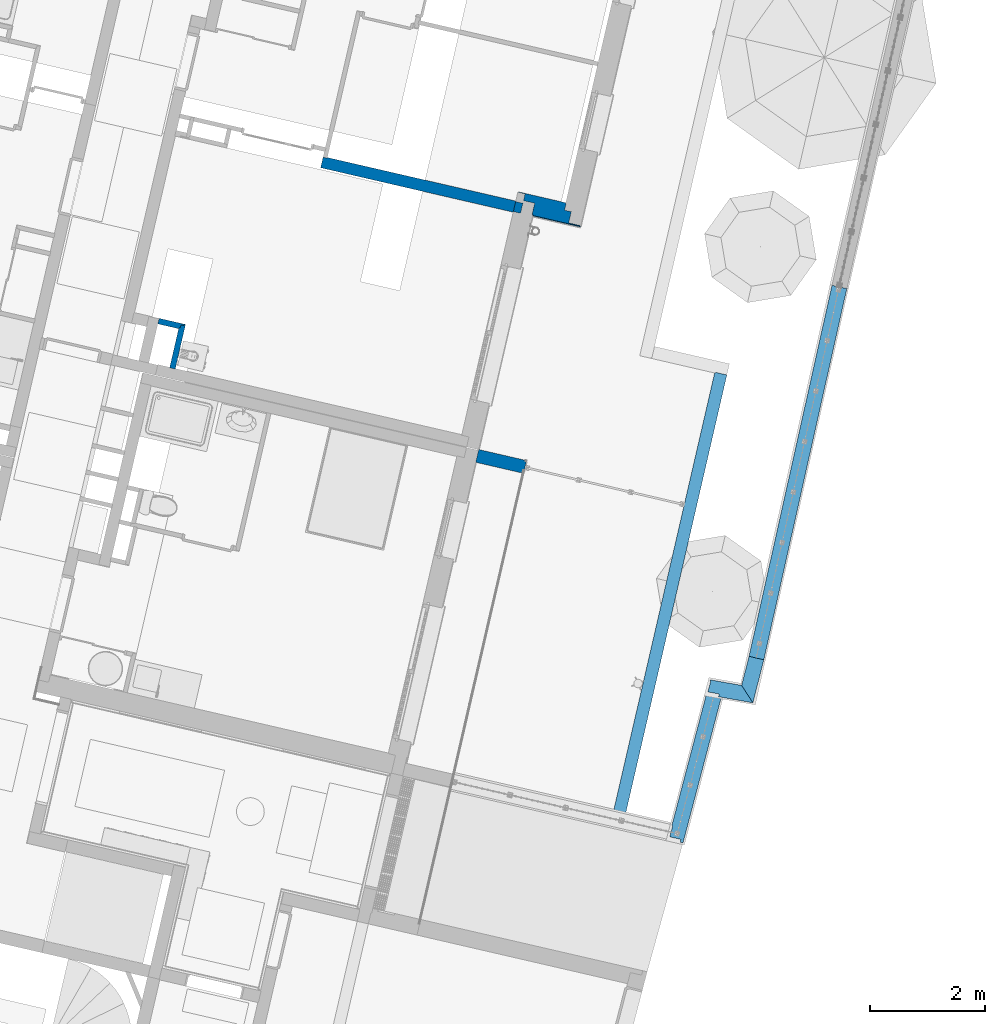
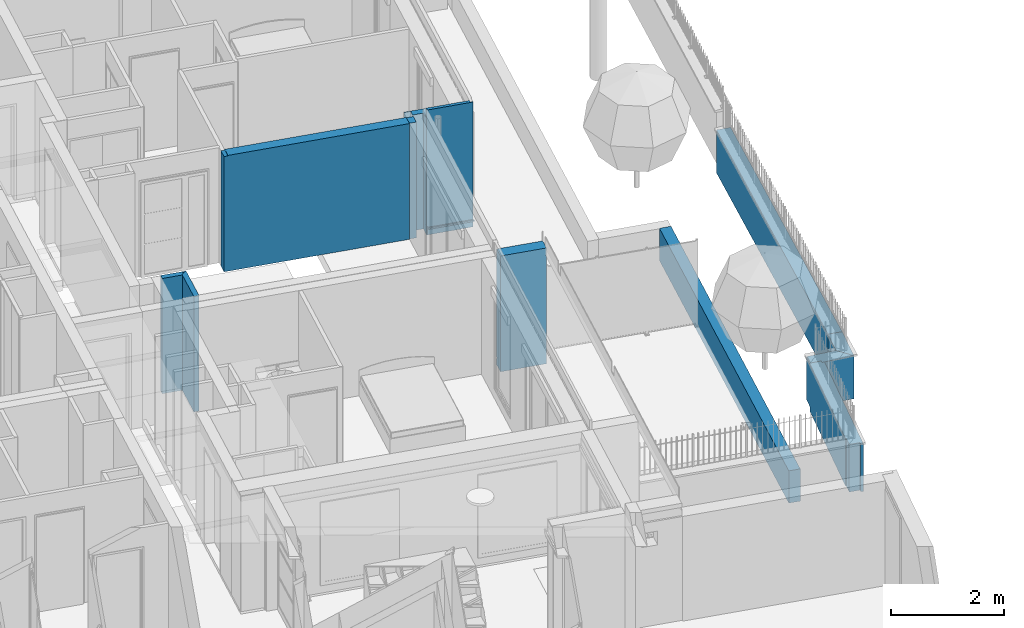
# One storey, part 58 of 119: 11 walls.
"""IFC2X3 building model written with IfcOpenShell, lengths in metres."""

import ifcopenshell
import ifcopenshell.guid

model = None  # the IFC model being written
_history = None  # IfcOwnerHistory: only IFC2X3 demands one
_inside = {}  # id of a spatial element -> (the spatial element, [elements in it])
_under = {}  # id of a project, library or spatial element -> (it, [spatial elements below it])
_declared = {}  # id of a project -> (the project, [libraries it declares])
_typed = {}  # id of a type object -> (the type object, [elements of that type])
_made_of = {}  # id of a material, layer set ... -> (it, [elements and type objects made of it])


def new_model(schema):
    """Start an empty IFC model of exactly this schema.

    Asked for "IFC4X3", IfcOpenShell would pick the latest addendum, in which some entities
    have other attributes; the version numbers below select the first issue.
    IFC2X3 requires an IfcOwnerHistory on every rooted entity: one is made here for all.
    """
    global model, _history
    if schema == "IFC4X3":
        model = ifcopenshell.file(schema_version=(4, 3, 0, 0))
    else:
        model = ifcopenshell.file(schema=schema)
    _inside.clear()
    _under.clear()
    _declared.clear()
    _typed.clear()
    _made_of.clear()
    _history = None
    if model.schema == "IFC2X3":
        org = make("IfcOrganization", Name="unknown")
        user = make(
            "IfcPersonAndOrganization",
            ThePerson=make("IfcPerson", FamilyName="unknown"),
            TheOrganization=org,
        )
        app = make(
            "IfcApplication",
            ApplicationDeveloper=org,
            Version="unknown",
            ApplicationFullName="unknown",
            ApplicationIdentifier="unknown",
        )
        _history = make(
            "IfcOwnerHistory",
            OwningUser=user,
            OwningApplication=app,
            ChangeAction="ADDED",
            CreationDate=0,
        )
    return model


def make(cls, **values):
    """One entity of the class cls with the attributes given. An attribute that is None is left unset."""
    return model.create_entity(
        cls, **{name: value for name, value in values.items() if value is not None}
    )


def entity(cls, *values):
    """Any entity or typed value of the class cls, its attributes in the order of the schema. None: left unset."""
    e = model.create_entity(cls)
    for i, value in enumerate(values):
        if value is not None:
            e[i] = value
    return e


def rooted(cls, **values):
    """An entity with a GlobalId (a new one), such as an element, a storey or a relation."""
    return make(cls, GlobalId=ifcopenshell.guid.new(), OwnerHistory=_history, **values)


def si_unit(unit_type, name, prefix=None):
    """IfcSIUnit, for example si_unit("LENGTHUNIT", "METRE", prefix="MILLI")."""
    return make("IfcSIUnit", UnitType=unit_type, Prefix=prefix, Name=name)


def converted_unit(unit_type, name, factor, base, dimensions=None, offset=None):
    """IfcConversionBasedUnit, such as the inch: factor (a typed value) times the base unit."""
    return make(
        "IfcConversionBasedUnit"
        if offset is None
        else "IfcConversionBasedUnitWithOffset",
        ConversionOffset=offset,
        Dimensions=None
        if dimensions is None
        else entity("IfcDimensionalExponents", *dimensions),
        UnitType=unit_type,
        Name=name,
        ConversionFactor=make(
            "IfcMeasureWithUnit", ValueComponent=factor, UnitComponent=base
        ),
    )


def derived_unit(unit_type, elements):
    """IfcDerivedUnit: a product of units, each with its exponent."""
    return make(
        "IfcDerivedUnit",
        Elements=[
            make("IfcDerivedUnitElement", Unit=unit, Exponent=power)
            for unit, power in elements
        ],
        UnitType=unit_type,
    )


def money_unit(currency):
    """IfcMonetaryUnit."""
    return make("IfcMonetaryUnit", Currency=currency)


def assignment(units):
    """IfcUnitAssignment: the units of a project."""
    return None if units is None else make("IfcUnitAssignment", Units=units)


def point(xyz):
    """IfcCartesianPoint."""
    return None if xyz is None else make("IfcCartesianPoint", Coordinates=xyz)


def direction(xyz):
    """IfcDirection."""
    return None if xyz is None else make("IfcDirection", DirectionRatios=xyz)


def frame(location, z_axis=None, x_axis=None):
    """IfcAxis2Placement3D, a coordinate frame: its origin and axes. An axis left out is left unset."""
    return make(
        "IfcAxis2Placement3D",
        Location=point(location),
        Axis=direction(z_axis),
        RefDirection=direction(x_axis),
    )


def origin_with_axes():
    """The frame at (0, 0, 0) with the z axis (0, 0, 1) and the x axis (1, 0, 0) written out."""
    return frame((0.0, 0.0, 0.0), z_axis=(0.0, 0.0, 1.0), x_axis=(1.0, 0.0, 0.0))


def place(relative_to, where):
    """IfcLocalPlacement: puts the frame where relative to a parent placement (None: the world)."""
    return make(
        "IfcLocalPlacement", PlacementRelTo=relative_to, RelativePlacement=where
    )


def context(
    kind, dimensions, precision=None, world=None, true_north=None, identifier=None
):
    """IfcGeometricRepresentationContext, for example the 3D "Model" context."""
    return make(
        "IfcGeometricRepresentationContext",
        ContextIdentifier=identifier,
        ContextType=kind,
        CoordinateSpaceDimension=dimensions,
        Precision=precision,
        WorldCoordinateSystem=world,
        TrueNorth=true_north,
    )


def subcontext(parent, identifier, kind, view, scale=None):
    """IfcGeometricRepresentationSubContext, for example "Body" below "Model"."""
    return make(
        "IfcGeometricRepresentationSubContext",
        ContextIdentifier=identifier,
        ContextType=kind,
        ParentContext=parent,
        TargetScale=scale,
        TargetView=view,
    )


def project(units=None, contexts=None):
    """IfcProject with its units and contexts."""
    return rooted(
        "IfcProject",
        Name="project",
        RepresentationContexts=contexts,
        UnitsInContext=assignment(units),
    )


def spatial(cls, under=None, at=None, **own):
    """A site, building, storey or space (cls), placed at a placement, below another one or the project."""
    s = rooted(cls, ObjectPlacement=at, **own)
    if under is not None:
        _under.setdefault(under.id(), (under, []))[1].append(s)
    return s


def faces_of(points, faces, orient=None, outer=None):
    """IfcFace entities. A face is a list of loops; a loop is a list of indices into points, from 0.

    orient and outer hold one flag for each loop. By default every Orientation is true, the
    first loop of a face is its IfcFaceOuterBound and the others are IfcFaceBound.
    """
    made = []
    for i, loops in enumerate(faces):
        bounds = []
        for j, loop in enumerate(loops):
            is_outer = j == 0 if outer is None else outer[i][j]
            bounds.append(
                make(
                    "IfcFaceOuterBound" if is_outer else "IfcFaceBound",
                    Bound=make("IfcPolyLoop", Polygon=[points[k] for k in loop]),
                    Orientation=True if orient is None else orient[i][j],
                )
            )
        made.append(make("IfcFace", Bounds=bounds))
    return made


def faceted_brep(points, faces, orient=None, outer=None, voids=None):
    """IfcFacetedBrep: a solid bounded by flat faces; with voids (closed shells), ...WithVoids."""
    shared = [point(p) for p in points]
    hull = make("IfcClosedShell", CfsFaces=faces_of(shared, faces, orient, outer))
    if voids is None:
        return make("IfcFacetedBrep", Outer=hull)
    return make(
        "IfcFacetedBrepWithVoids",
        Outer=hull,
        Voids=[
            make(cls, CfsFaces=faces_of(shared, fs, o, b)) for cls, fs, o, b in voids
        ],
    )


def shape(context_of_items, identifier, shape_type, items):
    """IfcShapeRepresentation: the items that make up one representation, for example the "Body"."""
    return make(
        "IfcShapeRepresentation",
        ContextOfItems=context_of_items,
        RepresentationIdentifier=identifier,
        RepresentationType=shape_type,
        Items=items,
    )


def material(Name=None, Category=None):
    """IfcMaterial."""
    return make("IfcMaterial", Name=Name, Category=Category)


def material_list(materials):
    """IfcMaterialList."""
    return make("IfcMaterialList", Materials=materials)


def made_of(thing, what):
    """Note that an element or type object is made of a material, layer set ...; save() writes the relation."""
    if what is not None:
        _made_of.setdefault(what.id(), (what, []))[1].append(thing)
    return thing


def type_object(cls, material=None, **own):
    """A type object (cls), such as IfcWallType, which elements share."""
    return made_of(rooted(cls, **own), material)


def element(
    cls,
    number,
    at=None,
    inside=None,
    cuts=None,
    type_object=None,
    material=None,
    context=None,
    identifier="Body",
    shape_type=None,
    held_by="IfcProductDefinitionShape",
    body=None,
    shapes=None,
    **own,
):
    """One element of the class cls, such as IfcWall. Its Tag is "e" and its number.

    at: its placement. inside: the storey or other place that contains it. cuts: it is an
    opening in that element (IfcRelVoidsElement). A single representation is given by context,
    identifier, shape_type and body (its items); several are given by shapes. held_by: the class
    of the entity that holds the representations. save() writes the other relations.
    """
    e = rooted(cls, Tag="e%d" % number, ObjectPlacement=at, **own)
    if body is not None:
        shapes = [shape(context, identifier, shape_type, body)]
    if shapes is not None:
        e.Representation = make(held_by, Representations=shapes)
    if inside is not None:
        _inside.setdefault(inside.id(), (inside, []))[1].append(e)
    if cuts is not None:
        rooted(
            "IfcRelVoidsElement", RelatingBuildingElement=cuts, RelatedOpeningElement=e
        )
    if type_object is not None:
        _typed.setdefault(type_object.id(), (type_object, []))[1].append(e)
    return made_of(e, material)


def aggregate(whole, parts):
    """IfcRelAggregates: a whole, such as a stair, and the parts it consists of."""
    return rooted("IfcRelAggregates", RelatingObject=whole, RelatedObjects=parts)


def save(model, path):
    """Write the relations noted so far, then the file.

    IfcRelAggregates (storeys below a building ...), IfcRelContainedInSpatialStructure (elements
    in a storey), IfcRelDefinesByType, IfcRelAssociatesMaterial and IfcRelDeclares: one each for
    every whole, place, type object, material and project.
    """
    for whole, parts in _under.values():
        aggregate(whole, parts)
    for where, things in _inside.values():
        rooted(
            "IfcRelContainedInSpatialStructure",
            RelatedElements=things,
            RelatingStructure=where,
        )
    for kind, things in _typed.values():
        rooted("IfcRelDefinesByType", RelatedObjects=things, RelatingType=kind)
    for what, things in _made_of.values():
        rooted("IfcRelAssociatesMaterial", RelatedObjects=things, RelatingMaterial=what)
    for by, libraries in _declared.values():
        rooted("IfcRelDeclares", RelatingContext=by, RelatedDefinitions=libraries)
    model.write(path)


model = new_model("IFC2X3")

# Units and contexts
model_context = context("Model", 3, precision=1e-05, world=origin_with_axes(), true_north=direction((0.0, 1.0)))
body_context = subcontext(model_context, "Body", "Model", "MODEL_VIEW")
ifc_project = project(units=[si_unit("LENGTHUNIT", "METRE"), si_unit("AREAUNIT", "SQUARE_METRE"), si_unit("VOLUMEUNIT", "CUBIC_METRE"), converted_unit("PLANEANGLEUNIT", "DEGREE", entity("IfcPlaneAngleMeasure", 0.0174532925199), si_unit("PLANEANGLEUNIT", "RADIAN"), dimensions=[0, 0, 0, 0, 0, 0, 0]), si_unit("SOLIDANGLEUNIT", "STERADIAN"), money_unit("EUR"), converted_unit("TIMEUNIT", "Year", entity("IfcTimeMeasure", 31556926.0), si_unit("TIMEUNIT", "SECOND"), dimensions=[0, 0, 1, 0, 0, 0, 0]), si_unit("MASSUNIT", "GRAM", prefix="KILO"), si_unit("THERMODYNAMICTEMPERATUREUNIT", "DEGREE_CELSIUS"), si_unit("LUMINOUSINTENSITYUNIT", "LUMEN"), si_unit("ENERGYUNIT", "JOULE", prefix="MEGA"), derived_unit("THERMALCONDUCTANCEUNIT", [(si_unit("POWERUNIT", "WATT"), 1), (si_unit("LENGTHUNIT", "METRE"), -1), (si_unit("THERMODYNAMICTEMPERATUREUNIT", "KELVIN"), -1)]), derived_unit("SPECIFICHEATCAPACITYUNIT", [(si_unit("ENERGYUNIT", "JOULE"), 1), (si_unit("MASSUNIT", "GRAM", prefix="KILO"), -1), (si_unit("THERMODYNAMICTEMPERATUREUNIT", "KELVIN"), -1)]), derived_unit("MASSDENSITYUNIT", [(si_unit("MASSUNIT", "GRAM", prefix="KILO"), 1), (si_unit("VOLUMEUNIT", "CUBIC_METRE"), -1)])], contexts=[model_context])

# Site, building, storey
site_placement = place(None, origin_with_axes())
site = spatial("IfcSite", under=ifc_project, at=site_placement, Name="Site", CompositionType="ELEMENT")
building_placement = place(site_placement, origin_with_axes())
building = spatial("IfcBuilding", under=site, at=building_placement, Name="Bâtiment", CompositionType="ELEMENT")
storey_placement = place(building_placement, origin_with_axes())
storey = spatial("IfcBuildingStorey", under=building, at=storey_placement, Name="Rez-de-chaussée", CompositionType="ELEMENT", Elevation=0.0)

# Walls
ifc_material_1 = material(Name="Finition int - Enduit plâtre")
ifc_material_2 = material(Name="Béton")
ifc_material_list_1 = material_list([ifc_material_1, ifc_material_2, ifc_material_1])
wall_type_1 = type_object("IfcWallType", Name="2 - Murs Béton 18 + Enduit 2 Faces 200", PredefinedType="USERDEFINED")
wall_1_placement = place(storey_placement, frame((-4.73651764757, 7.48675072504, 0.0), z_axis=(0.0, 0.0, 1.0), x_axis=(0.974387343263, -0.224876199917, 0.0)))
element("IfcWall", 1, at=wall_1_placement, inside=storey, type_object=wall_type_1, material=ifc_material_list_1, Name="M_Ext-008", ObjectType="SOLIDWALL", context=body_context, shape_type="Brep", body=[
    faceted_brep([(0.0, 0.19, 2.51), (3.37119131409, 0.19, 2.51), (3.37119131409, 0.19, 0.0), (-1.17892362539e-10, 0.19, 0.0), (-1.17893250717e-10, 0.19, 2.5), (3.37119131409, 0.18, 2.51), (0.0, 0.18, 2.51), (3.37119131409, 0.18, 0.0), (-1.11687548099e-10, 0.18, 0.0), (-1.11687548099e-10, 0.18, 2.5)], [[[0, 1, 2, 3, 4]], [[5, 1, 0, 6]], [[1, 5, 7, 2]], [[7, 8, 3, 2]], [[8, 9, 4, 3]], [[6, 0, 4, 9]], [[5, 6, 9, 8, 7]]]),
    faceted_brep([(0.0, 0.18, 2.51), (3.37119131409, 0.18, 2.51), (3.37119131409, 0.18, 0.0), (-0.0739999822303, 0.18, 0.0), (-0.0739999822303, 0.18, 2.5), (0.0, 0.18, 2.5), (3.37119131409, 0.0, 2.51), (0.0, 0.0, 2.51), (3.37119131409, 0.0, 0.0), (-0.0739999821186, 0.0, 0.0), (-0.0739999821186, 0.0, 2.5), (0.0, 0.0, 2.5)], [[[0, 1, 2, 3, 4, 5]], [[6, 1, 0, 7]], [[1, 6, 8, 2]], [[8, 9, 3, 2]], [[9, 10, 4, 3]], [[5, 4, 10, 11]], [[7, 0, 5, 11]], [[6, 7, 11, 10, 9, 8]]]),
    faceted_brep([(0.0, 0.0, 2.51), (3.37119131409, 0.0, 2.51), (3.37119131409, 0.0, 0.0), (-0.0739999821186, 0.0, 0.0), (-0.0739999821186, 0.0, 2.5), (0.0, 0.0, 2.5), (3.37119131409, -0.01, 2.51), (0.0, -0.01, 2.51), (3.37119131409, -0.01, 0.0), (-0.0739999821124, -0.01, 0.0), (-0.0739999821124, -0.01, 2.5), (0.0, -0.01, 2.5)], [[[0, 1, 2, 3, 4, 5]], [[6, 1, 0, 7]], [[1, 6, 8, 2]], [[8, 9, 3, 2]], [[9, 10, 4, 3]], [[5, 4, 10, 11]], [[7, 0, 5, 11]], [[6, 7, 11, 10, 9, 8]]]),
])
wall_type_2 = type_object("IfcWallType", Name="Béton 180", PredefinedType="USERDEFINED")
wall_2_placement = place(storey_placement, frame((-1.4516714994, 6.72865003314, 0.0), z_axis=(0.0, 0.0, 1.0), x_axis=(0.974387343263, -0.224876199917, 0.0)))
element("IfcWall", 2, at=wall_2_placement, inside=storey, type_object=wall_type_2, material=ifc_material_2, Name="M_Ext-008", ObjectType="SOLIDWALL", context=body_context, shape_type="Brep", body=[
    faceted_brep([(0.0, 0.18, 0.0), (0.0, 0.18, 2.51), (0.130000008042, 0.18, 2.51), (0.130000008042, 0.18, 0.0), (0.0, 0.0, 0.0), (0.0, 0.0, 2.51), (0.130000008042, 0.0, 2.51), (0.130000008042, 0.0, 0.0)], [[[0, 1, 2, 3]], [[4, 5, 1, 0]], [[5, 6, 2, 1]], [[3, 2, 6, 7]], [[4, 0, 3, 7]], [[7, 6, 5, 4]]]),
])
ifc_material_3 = material(Name="Finition int - Plaque de plâtre")
ifc_material_4 = material(Name="Isolation - Polystyrène extrudé")
ifc_material_5 = material(Name="Bloc ELITHERM")
ifc_material_6 = material(Name="Mortier")
ifc_material_7 = material(Name="Béton cellulaire")
ifc_material_8 = material(Name="Etanchéité - Bitume")
ifc_material_9 = material(Name="Finition ext - Crépis")
ifc_material_10 = material(Name="Métal - Aluminium")
ifc_material_list_2 = material_list([ifc_material_3, ifc_material_4, ifc_material_5, ifc_material_6, ifc_material_7, ifc_material_8, ifc_material_9, ifc_material_10])
wall_type_3 = type_object("IfcWallType", Name="Mur ALKERN + planelle 21 TERRASSE RDC 356 x 2720", PredefinedType="USERDEFINED")
wall_3_placement = place(storey_placement, frame((-1.10169279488, 6.64422506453, 0.0), z_axis=(0.0, 0.0, 1.0), x_axis=(0.974387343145, -0.224876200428, 0.0)))
element("IfcWall", 3, at=wall_3_placement, inside=storey, type_object=wall_type_3, material=ifc_material_list_2, Name="Mue bloc ALKERN isolé", ObjectType="SOLIDWALL", context=body_context, shape_type="Brep", body=[
    faceted_brep([(-0.350000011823, 0.360000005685, 0.176532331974), (-0.350000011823, 0.360000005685, 0.207793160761), (-0.350000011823, 0.360000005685, 2.50955002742), (0.495808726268, 0.359999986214, 2.50955001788), (0.495808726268, 0.359999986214, 0.207793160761), (0.495808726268, 0.359999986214, 0.176532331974), (0.495808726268, 0.359999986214, 0.169414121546), (0.495808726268, 0.359999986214, 0.160000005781), (0.495808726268, 0.359999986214, 0.133633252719), (0.495808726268, 0.359999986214, 0.0), (-0.350000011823, 0.360000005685, 0.0), (-0.350000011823, 0.360000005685, 0.133633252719), (-0.350000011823, 0.360000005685, 0.160000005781), (-0.350000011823, 0.360000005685, 0.169414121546), (-0.350000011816, 0.350000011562, 0.176532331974), (-0.350000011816, 0.350000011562, 0.207793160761), (-0.350000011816, 0.350000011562, 2.5095500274), (0.495808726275, 0.350000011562, 2.50955001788), (0.495808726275, 0.350000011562, 0.207793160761), (0.495808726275, 0.350000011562, 0.176532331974), (0.495808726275, 0.350000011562, 0.169414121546), (0.495808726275, 0.350000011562, 0.160000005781), (0.495808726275, 0.350000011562, 0.133633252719), (0.495808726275, 0.350000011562, 0.0), (-0.350000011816, 0.350000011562, 0.0), (-0.350000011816, 0.350000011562, 0.133633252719), (-0.350000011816, 0.350000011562, 0.160000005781), (-0.350000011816, 0.350000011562, 0.169414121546)], [[[0, 1, 2, 3, 4, 5, 6, 7, 8, 9, 10, 11, 12, 13]], [[14, 15, 1, 0]], [[15, 16, 2, 1]], [[3, 2, 16, 17]], [[17, 18, 4, 3]], [[19, 5, 4, 18]], [[19, 20, 6, 5]], [[7, 6, 20, 21]], [[22, 8, 7, 21]], [[8, 22, 23, 9]], [[9, 23, 24, 10]], [[11, 10, 24, 25]], [[25, 26, 12, 11]], [[27, 13, 12, 26]], [[13, 27, 14, 0]], [[17, 16, 15, 14, 27, 26, 25, 24, 23, 22, 21, 20, 19, 18]]]),
    faceted_brep([(-0.229999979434, 0.350000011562, 0.176532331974), (-0.229999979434, 0.350000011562, 0.207793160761), (-0.229999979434, 0.350000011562, 2.5095500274), (0.505808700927, 0.350000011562, 2.50955001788), (0.505808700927, 0.350000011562, 0.207793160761), (0.505808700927, 0.350000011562, 0.176532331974), (0.505808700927, 0.350000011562, 0.169414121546), (0.505808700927, 0.350000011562, 0.160000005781), (0.505808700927, 0.350000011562, 0.133633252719), (0.505808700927, 0.350000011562, 0.0), (-0.229999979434, 0.350000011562, 0.0), (-0.229999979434, 0.350000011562, 0.133633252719), (-0.229999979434, 0.350000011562, 0.160000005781), (-0.229999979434, 0.350000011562, 0.169414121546), (-0.229999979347, 0.22999997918, 0.176532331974), (-0.229999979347, 0.22999997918, 0.207793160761), (-0.229999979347, 0.22999997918, 2.50955002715), (0.505808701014, 0.22999997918, 2.50955001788), (0.505808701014, 0.22999997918, 0.207793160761), (0.505808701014, 0.22999997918, 0.176532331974), (0.505808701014, 0.22999997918, 0.169414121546), (0.505808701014, 0.22999997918, 0.160000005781), (0.505808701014, 0.22999997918, 0.133633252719), (0.505808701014, 0.22999997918, 0.0), (-0.229999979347, 0.22999997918, 0.0), (-0.229999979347, 0.22999997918, 0.133633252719), (-0.229999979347, 0.22999997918, 0.160000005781), (-0.229999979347, 0.22999997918, 0.169414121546)], [[[0, 1, 2, 3, 4, 5, 6, 7, 8, 9, 10, 11, 12, 13]], [[14, 15, 1, 0]], [[15, 16, 2, 1]], [[3, 2, 16, 17]], [[3, 17, 18, 4]], [[18, 19, 5, 4]], [[5, 19, 20, 6]], [[21, 7, 6, 20]], [[21, 22, 8, 7]], [[9, 8, 22, 23]], [[9, 23, 24, 10]], [[11, 10, 24, 25]], [[25, 26, 12, 11]], [[27, 13, 12, 26]], [[13, 27, 14, 0]], [[17, 16, 15, 14, 27, 26, 25, 24, 23, 22, 21, 20, 19, 18]]]),
    faceted_brep([(-0.0310453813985, 0.229999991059, 0.207793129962), (-0.0300000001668, 0.229999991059, 0.207793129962), (-0.0300000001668, 0.229999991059, 2.50955002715), (0.625808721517, 0.229999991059, 2.50955001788), (0.625808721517, 0.229999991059, 0.207793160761), (0.625808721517, 0.229999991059, 0.176532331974), (0.625808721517, 0.229999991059, 0.169414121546), (0.625808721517, 0.229999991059, 0.160000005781), (0.625808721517, 0.229999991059, 0.133633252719), (0.625808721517, 0.229999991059, 0.0), (-0.0300000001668, 0.229999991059, 0.0), (-0.0300000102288, 0.229999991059, 0.133633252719), (-0.0300000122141, 0.229999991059, 0.160000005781), (-0.0300000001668, 0.229999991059, 0.169414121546), (-0.0310453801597, 0.229999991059, 0.169727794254), (-0.0310453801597, 0.229999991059, 0.176532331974), (-0.0310453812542, 0.0310453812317, 0.207793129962), (-0.0300000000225, 0.0310453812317, 0.207793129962), (-0.0300000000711, 0.0979999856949, 2.50955002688), (-0.0300000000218, 0.03, 0.207793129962), (-0.0300000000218, 0.03, 2.50955002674), (0.625808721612, 0.0979999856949, 2.50955001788), (0.625808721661, 0.03, 2.50955001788), (0.625808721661, 0.03, 0.207793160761), (0.62580872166, 0.0310453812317, 0.207793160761), (0.62580872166, 0.0310453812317, 0.176532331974), (0.62580872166, 0.0310453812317, 0.169727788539), (0.625808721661, 0.03, 0.169414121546), (0.625808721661, 0.0300000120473, 0.160000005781), (0.625808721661, 0.0300000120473, 0.133633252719), (0.625808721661, 0.03, 0.0), (-0.0300000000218, 0.03, 0.0), (-0.0300000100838, 0.0300000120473, 0.133633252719), (-0.0300000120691, 0.0300000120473, 0.160000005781), (-0.0300000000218, 0.03, 0.169414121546), (-0.0310453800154, 0.0310453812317, 0.169727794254), (-0.0310453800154, 0.0310453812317, 0.176532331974)], [[[0, 1, 2, 3, 4, 5, 6, 7, 8, 9, 10, 11, 12, 13, 14, 15]], [[1, 0, 16, 17]], [[18, 2, 1, 17, 19, 20]], [[2, 18, 21, 3]], [[22, 23, 24, 4, 3, 21]], [[24, 25, 5, 4]], [[26, 27, 6, 5, 25]], [[28, 7, 6, 27]], [[28, 29, 8, 7]], [[9, 8, 29, 30]], [[30, 31, 10, 9]], [[10, 31, 32, 11]], [[33, 12, 11, 32]], [[13, 12, 33, 34]], [[13, 34, 35, 14]], [[35, 36, 15, 14]], [[16, 0, 15, 36]], [[17, 16, 36, 35, 26, 25, 24]], [[19, 17, 24, 23]], [[20, 19, 23, 22]], [[18, 20, 22, 21]], [[34, 27, 26, 35]], [[34, 33, 28, 27]], [[31, 30, 29, 28, 33, 32]]]),
    faceted_brep([(-0.0300000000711, 0.0980000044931, 2.50955002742), (-0.0300000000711, 0.0980000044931, 2.52), (0.757808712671, 0.098, 2.52), (0.757808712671, 0.098, 2.50955), (-0.0300000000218, 0.03, 2.52), (-0.0300000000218, 0.03, 2.50955002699), (0.75780871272, 0.03, 2.52), (0.75780871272, 0.03, 2.50955)], [[[0, 1, 2, 3]], [[4, 1, 0, 5]], [[1, 4, 6, 2]], [[3, 2, 6, 7]], [[5, 0, 3, 7]], [[4, 5, 7, 6]]]),
    faceted_brep([(-0.0300000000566, 0.0780000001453, 2.51999999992), (-0.0300000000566, 0.0780000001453, 2.72000000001), (0.77780871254, 0.0780000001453, 2.72), (0.77780871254, 0.0780000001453, 2.51999999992), (-0.0300000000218, 0.03, 2.72000000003), (-0.0300000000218, 0.03, 2.51999999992), (0.777808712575, 0.03, 2.72), (0.777808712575, 0.03, 2.51999999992)], [[[0, 1, 2, 3]], [[4, 1, 0, 5]], [[1, 4, 6, 2]], [[3, 2, 6, 7]], [[5, 0, 3, 7]], [[4, 5, 7, 6]]]),
    faceted_brep([(0.82580870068, 0.02, 0.01), (0.8258087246, 0.0299999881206, 0.01), (0.825808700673, 0.0300000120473, 0.133633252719), (0.82580870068, 0.02, 0.133633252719), (-0.0200000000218, 0.0299999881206, 0.01), (-0.0200000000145, 0.02, 0.01), (-0.0200000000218, 0.0300000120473, 0.133633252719), (-0.0200000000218, 0.0300000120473, 0.160000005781), (0.825808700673, 0.0300000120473, 0.160000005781), (0.82580870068, 0.02, 0.160000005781), (-0.0200000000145, 0.02, 0.160000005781), (-0.0200000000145, 0.02, 0.133633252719)], [[[0, 1, 2, 3]], [[4, 1, 0, 5]], [[1, 4, 6, 7, 8, 2]], [[3, 2, 8, 9]], [[5, 0, 3, 9, 10, 11]], [[4, 5, 11, 6]], [[11, 10, 7, 6]], [[8, 7, 10, 9]]]),
    faceted_brep([(-0.0150000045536, 0.0299999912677, 2.72000000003), (0.825808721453, 0.0299999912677, 2.72), (0.825808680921, 0.0300000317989, 0.176532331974), (-0.0150000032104, 0.0300000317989, 0.176532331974), (-0.0150000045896, 0.0150000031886, 2.72000000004), (0.825808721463, 0.0150000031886, 2.72), (0.825808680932, 0.0150000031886, 0.176532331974), (-0.0150000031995, 0.0150000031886, 0.176532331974)], [[[0, 1, 2, 3]], [[1, 0, 4, 5]], [[2, 1, 5, 6]], [[6, 7, 3, 2]], [[7, 4, 0, 3]], [[5, 4, 7, 6]]]),
    faceted_brep([(-0.0300000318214, 0.0310453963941, 0.176532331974), (-0.0300000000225, 0.0310453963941, 0.207793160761), (0.824763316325, 0.0310453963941, 0.207793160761), (0.824763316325, 0.0310453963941, 0.176532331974), (0.824763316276, 0.0310453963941, 0.169727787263), (-0.0264705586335, 0.0310453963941, 0.169727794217), (-0.0299999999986, 0.0310453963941, 0.17077486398), (-0.0300000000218, 0.03, 0.207793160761), (-0.0300000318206, 0.0300000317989, 0.176532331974), (0.824763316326, 0.03, 0.207793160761), (0.824763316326, 0.0300000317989, 0.176532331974), (0.824763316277, 0.03, 0.170774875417), (0.82476331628, 0.0264705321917, 0.169727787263), (0.825808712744, 0.03, 0.169414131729), (-0.0254132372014, 0.03, 0.169414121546), (-0.025413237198, 0.0254132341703, 0.169414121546), (-0.0299999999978, 0.03, 0.17077486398), (-0.00356074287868, 0.0035607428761, 0.162931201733), (0.847418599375, 0.0035607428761, 0.162931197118), (0.825808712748, 0.0254132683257, 0.169414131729), (-0.00356074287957, 0.00479482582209, 0.16185262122), (-0.00356074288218, 0.00839012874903, 0.162931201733), (0.851013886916, 0.00479482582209, 0.161852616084), (0.851013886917, 0.0035607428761, 0.133633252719), (0.851013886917, 0.0035607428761, 0.160000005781), (0.851013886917, 0.0035607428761, 0.161852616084), (-0.00356074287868, 0.0035607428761, 0.160000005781), (-0.00356074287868, 0.0035607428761, 0.133633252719), (-0.00356074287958, 0.00479482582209, 0.160000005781), (0.851013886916, 0.00479482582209, 0.160000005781), (0.851013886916, 0.00479482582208, 0.133633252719), (-0.00356074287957, 0.00479482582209, 0.133633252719)], [[[0, 1, 2, 3, 4, 5, 6]], [[7, 1, 0, 8]], [[1, 7, 9, 2]], [[3, 2, 9, 10]], [[10, 11, 12, 4, 3]], [[4, 13, 14, 5]], [[6, 5, 14, 15, 16]], [[8, 0, 6, 16]], [[7, 8, 10, 9]], [[11, 10, 8, 16]], [[15, 17, 18, 19, 12, 11, 16]], [[4, 12, 19, 13]], [[20, 21, 14, 13, 22]], [[21, 17, 15, 14]], [[23, 24, 25, 18, 17, 26, 27]], [[13, 19, 18, 25, 22]], [[17, 21, 20, 28, 26]], [[20, 22, 29, 30, 31, 28]], [[29, 24, 23, 30]], [[29, 22, 25, 24]], [[28, 31, 27, 26]], [[23, 27, 31, 30]]]),
])
ifc_material_11 = material(Name="Isolation - Laine de roche")
ifc_material_list_3 = material_list([ifc_material_3, ifc_material_3, ifc_material_11, ifc_material_3, ifc_material_3])
wall_type_4 = type_object("IfcWallType", Name="3 - Cloison Gaine Technique 98mm 100", PredefinedType="USERDEFINED")
wall_4_placement = place(storey_placement, frame((-7.62717439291, 4.86922451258, 0.0), z_axis=(0.0, 0.0, 1.0), x_axis=(0.974387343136, -0.224876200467, 0.0)))
element("IfcWall", 4, at=wall_4_placement, inside=storey, type_object=wall_type_4, material=ifc_material_list_3, Name="Cloison 98 isolée", ObjectType="PARTITIONING", context=body_context, shape_type="Brep", body=[
    faceted_brep([(0.459999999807, -0.013, 2.5), (0.459999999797, 0.0, 2.5), (0.0, 0.0, 2.5), (0.0, -0.013, 2.5), (0.459999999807, -0.013, 0.0), (0.459999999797, 0.0, 0.0), (0.0, 0.0, 0.0), (0.0, -0.013, 0.0)], [[[0, 1, 2, 3]], [[1, 0, 4, 5]], [[1, 5, 6, 2]], [[7, 3, 2, 6]], [[4, 0, 3, 7]], [[5, 4, 7, 6]]]),
    faceted_brep([(0.446999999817, -0.026, 2.5), (0.446999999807, -0.013, 2.5), (0.0, -0.013, 2.5), (0.0, -0.026, 2.5), (0.446999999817, -0.026, 0.0), (0.446999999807, -0.013, 0.0), (0.0, -0.013, 0.0), (0.0, -0.026, 0.0)], [[[0, 1, 2, 3]], [[1, 0, 4, 5]], [[1, 5, 6, 2]], [[7, 3, 2, 6]], [[4, 0, 3, 7]], [[5, 4, 7, 6]]]),
    faceted_brep([(0.398999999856, -0.074, 2.5), (0.398999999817, -0.026, 2.5), (0.0, -0.026, 2.5), (0.0, -0.074, 2.5), (0.398999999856, -0.074, 0.0), (0.398999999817, -0.026, 0.0), (0.0, -0.026, 0.0), (0.0, -0.074, 0.0)], [[[0, 1, 2, 3]], [[1, 0, 4, 5]], [[1, 5, 6, 2]], [[7, 3, 2, 6]], [[4, 0, 3, 7]], [[5, 4, 7, 6]]]),
    faceted_brep([(0.385999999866, -0.087, 2.5), (0.385999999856, -0.074, 2.5), (0.0, -0.074, 2.5), (0.0, -0.087, 2.5), (0.385999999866, -0.087, 0.0), (0.385999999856, -0.074, 0.0), (0.0, -0.074, 0.0), (0.0, -0.087, 0.0)], [[[0, 1, 2, 3]], [[1, 0, 4, 5]], [[1, 5, 6, 2]], [[7, 3, 2, 6]], [[4, 0, 3, 7]], [[5, 4, 7, 6]]]),
    faceted_brep([(0.372999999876, -0.1, 2.5), (0.372999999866, -0.087, 2.5), (0.0, -0.087, 2.5), (0.0, -0.1, 2.5), (0.372999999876, -0.1, 0.0), (0.372999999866, -0.087, 0.0), (0.0, -0.087, 0.0), (0.0, -0.1, 0.0)], [[[0, 1, 2, 3]], [[1, 0, 4, 5]], [[1, 5, 6, 2]], [[7, 3, 2, 6]], [[4, 0, 3, 7]], [[5, 4, 7, 6]]]),
])
wall_5_placement = place(storey_placement, frame((-7.1662891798, 4.7628580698, 0.0), z_axis=(0.0, 0.0, 1.0), x_axis=(-0.224876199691, -0.974387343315, 0.0)))
element("IfcWall", 5, at=wall_5_placement, inside=storey, type_object=wall_type_4, material=ifc_material_list_3, Name="Cloison 98 isolée", ObjectType="PARTITIONING", context=body_context, shape_type="Brep", body=[
    faceted_brep([(0.0, -0.013, 2.5), (0.800475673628, -0.013, 2.5), (0.800475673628, 0.0, 2.5), (0.0, 0.0, 2.5), (0.0, -0.013, 0.0), (0.800475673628, -0.013, 0.0), (0.800475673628, 0.0, 0.0), (0.0, 0.0, 0.0)], [[[0, 1, 2, 3]], [[4, 5, 1, 0]], [[2, 1, 5, 6]], [[3, 2, 6, 7]], [[4, 0, 3, 7]], [[7, 6, 5, 4]]]),
    faceted_brep([(0.0129999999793, -0.026, 2.5), (0.800475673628, -0.026, 2.5), (0.800475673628, -0.013, 2.5), (0.0129999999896, -0.013, 2.5), (0.0129999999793, -0.026, 0.0), (0.800475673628, -0.026, 0.0), (0.800475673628, -0.013, 0.0), (0.0129999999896, -0.013, 0.0)], [[[0, 1, 2, 3]], [[4, 5, 1, 0]], [[2, 1, 5, 6]], [[3, 2, 6, 7]], [[4, 0, 3, 7]], [[7, 6, 5, 4]]]),
    faceted_brep([(0.025999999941, -0.074, 2.5), (0.800475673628, -0.074, 2.5), (0.800475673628, -0.026, 2.5), (0.0259999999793, -0.026, 2.5), (0.025999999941, -0.074, 0.0), (0.800475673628, -0.074, 0.0), (0.800475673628, -0.026, 0.0), (0.0259999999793, -0.026, 0.0)], [[[0, 1, 2, 3]], [[4, 5, 1, 0]], [[2, 1, 5, 6]], [[3, 2, 6, 7]], [[4, 0, 3, 7]], [[7, 6, 5, 4]]]),
    faceted_brep([(0.0739999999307, -0.087, 2.5), (0.800475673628, -0.087, 2.5), (0.800475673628, -0.074, 2.5), (0.073999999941, -0.074, 2.5), (0.0739999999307, -0.087, 0.0), (0.800475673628, -0.087, 0.0), (0.800475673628, -0.074, 0.0), (0.073999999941, -0.074, 0.0)], [[[0, 1, 2, 3]], [[4, 5, 1, 0]], [[2, 1, 5, 6]], [[3, 2, 6, 7]], [[4, 0, 3, 7]], [[7, 6, 5, 4]]]),
    faceted_brep([(0.0869999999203, -0.1, 2.5), (0.800475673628, -0.1, 2.5), (0.800475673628, -0.087, 2.5), (0.0869999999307, -0.087, 2.5), (0.0869999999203, -0.1, 0.0), (0.800475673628, -0.1, 0.0), (0.800475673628, -0.087, 0.0), (0.0869999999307, -0.087, 0.0)], [[[0, 1, 2, 3]], [[4, 5, 1, 0]], [[2, 1, 5, 6]], [[3, 2, 6, 7]], [[4, 0, 3, 7]], [[7, 6, 5, 4]]]),
])
ifc_material_12 = material(Name="Pierre")
ifc_material_13 = material(Name="Parpaing 20cm")
ifc_material_list_4 = material_list([ifc_material_12, ifc_material_13, ifc_material_9])
wall_type_5 = type_object("IfcWallType", Name="1 - Mur PARPAING 20 Endui + parement pierre 1 face 265", PredefinedType="ELEMENTEDWALL")
wall_6_placement = place(storey_placement, frame((2.72517725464, -1.83490668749, 0.268463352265), z_axis=(0.0, 0.0, 1.0), x_axis=(-0.984711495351, 0.17419319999, 0.0)))
element("IfcWall", 6, at=wall_6_placement, inside=storey, type_object=wall_type_5, material=ifc_material_list_4, Name="Mur béton 20cm", ObjectType="ELEMENTEDWALL", context=body_context, shape_type="Brep", body=[
    faceted_brep([(0.608994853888, 0.0, 0.0), (0.608994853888, 0.0, 0.931536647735), (0.604877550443, -0.0499999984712, 0.931536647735), (0.604877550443, -0.0499999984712, 0.0), (0.0, 0.0, 0.0), (0.0, 0.0, 0.931536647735), (0.0464248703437, -0.0499999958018, 0.931536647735), (0.0464248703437, -0.0499999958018, 0.0)], [[[0, 1, 2, 3]], [[1, 0, 4, 5]], [[6, 2, 1, 5]], [[2, 6, 7, 3]], [[0, 3, 7, 4]], [[7, 6, 5, 4]]]),
    faceted_brep([(0.0464248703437, -0.0499999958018, 0.0), (0.0464248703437, -0.0499999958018, 0.931536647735), (0.805554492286, -0.0499999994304, 0.931536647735), (0.805554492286, -0.0499999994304, 0.0), (0.23212437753, -0.250000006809, 0.931536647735), (0.23212437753, -0.250000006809, 0.0), (0.789085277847, -0.250000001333, 0.931536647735), (0.789085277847, -0.250000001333, 0.0)], [[[0, 1, 2, 3]], [[4, 1, 0, 5]], [[1, 4, 6, 2]], [[2, 6, 7, 3]], [[5, 0, 3, 7]], [[4, 5, 7, 6]]]),
    faceted_brep([(0.23212437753, -0.250000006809, 0.0), (0.23212437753, -0.250000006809, 0.931536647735), (0.804136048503, -0.250000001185, 0.931536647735), (0.804136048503, -0.250000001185, 0.0), (0.246051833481, -0.265, 0.931536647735), (0.246051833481, -0.265, 0.0), (0.80290085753, -0.265, 0.931536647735), (0.80290085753, -0.265, 0.0)], [[[0, 1, 2, 3]], [[4, 1, 0, 5]], [[1, 4, 6, 2]], [[2, 6, 7, 3]], [[5, 0, 3, 7]], [[4, 5, 7, 6]]]),
])
wall_7_placement = place(storey_placement, frame((2.1748952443, -1.73756306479, 0.168463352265), z_axis=(0.0, 0.0, 1.0), x_axis=(-0.254419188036, -0.967094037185, 0.0)))
element("IfcWall", 7, at=wall_7_placement, inside=storey, type_object=wall_type_5, material=ifc_material_list_4, Name="Mur béton 20cm", ObjectType="ELEMENTEDWALL", context=body_context, shape_type="Brep", body=[
    faceted_brep([(0.0, 0.0, 0.1), (0.0, -1.96368699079e-10, 1.03153664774), (2.62498242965, 0.0, 1.03153664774), (2.62498242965, 0.0, 0.0), (0.0, 0.0, 0.0), (0.00411730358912, -0.0500000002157, 1.03153664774), (0.00411730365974, -0.0500000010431, 0.1), (2.62650445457, -0.05, 1.03153664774), (2.62650445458, -0.0500000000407, 0.0), (0.0, -0.0500000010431, 0.0), (0.0, -0.0500000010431, 0.1)], [[[0, 1, 2, 3, 4]], [[5, 1, 0, 6]], [[1, 5, 7, 2]], [[3, 2, 7, 8]], [[8, 9, 4, 3]], [[10, 0, 4, 9]], [[0, 10, 6]], [[6, 10, 9, 8, 7, 5]]]),
    faceted_brep([(-0.0460519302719, -0.0500000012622, 0.1), (-0.0460519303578, -0.0500000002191, 1.03153664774), (2.57648129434, -0.05, 1.03153664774), (2.57648129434, -0.0500000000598, 0.0), (0.0, -0.0500000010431, 0.0), (0.0, -0.0500000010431, 0.0999999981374), (-0.0295827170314, -0.250000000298, 1.03153664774), (-0.0295827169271, -0.250000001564, 0.1), (2.58256939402, -0.25, 1.03153664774), (2.58256939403, -0.25000000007, 0.0), (0.0, -0.250000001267, 0.0), (0.0, -0.250000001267, 0.0999999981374)], [[[0, 1, 2, 3, 4, 5]], [[6, 1, 0, 7]], [[1, 6, 8, 2]], [[3, 2, 8, 9]], [[9, 10, 4, 3]], [[11, 5, 4, 10]], [[7, 0, 5, 11]], [[6, 7, 11, 10, 9, 8]]]),
    faceted_brep([(-0.230259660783, -0.250000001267, 0.1), (-0.230259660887, -0.25, 1.03153664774), (2.38247675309, -0.25, 1.03153664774), (2.38247675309, -0.250000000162, 0.0), (0.0, -0.250000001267, 0.0), (0.0, -0.250000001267, 0.0999999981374), (-0.229024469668, -0.265, 1.03153664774), (-0.229024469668, -0.265, 0.1), (2.38293336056, -0.265, 1.03153664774), (2.38293336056, -0.265, 0.0), (0.0, -0.265, 0.0), (0.0, -0.265, 0.0999999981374)], [[[0, 1, 2, 3, 4, 5]], [[6, 1, 0, 7]], [[1, 6, 8, 2]], [[3, 2, 8, 9]], [[9, 10, 4, 3]], [[11, 5, 4, 10]], [[7, 0, 5, 11]], [[6, 7, 11, 10, 9, 8]]]),
])
wall_8_placement = place(storey_placement, frame((4.36329300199, 5.38663021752, 0.268463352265), z_axis=(0.0, 0.0, 1.0), x_axis=(-0.218243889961, -0.97589425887, 0.0)))
element("IfcWall", 8, at=wall_8_placement, inside=storey, type_object=wall_type_5, material=ifc_material_list_4, Name="Mur béton 20cm", ObjectType="ELEMENTEDWALL", context=body_context, shape_type="Brep", body=[
    faceted_brep([(6.63196259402, 0.0, 0.0), (6.6319625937, 0.0, 0.931536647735), (6.63123275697, -0.0499999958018, 0.931536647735), (6.63123275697, -0.0499999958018, 0.0), (0.0, 0.0, 0.0), (0.0, -4.73195349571e-09, 0.208073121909), (0.0, -4.73195349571e-09, 0.931536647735), (-7.62035846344e-05, -0.0500000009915, 0.931536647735), (-7.62035846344e-05, -0.0500000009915, 0.208073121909), (0.0, -0.0500000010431, 0.208073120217), (0.0, -0.0500000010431, 0.0)], [[[0, 1, 2, 3]], [[1, 0, 4, 5, 6]], [[2, 1, 6, 7]], [[3, 2, 7, 8, 9, 10]], [[0, 3, 10, 4]], [[10, 9, 5, 4]], [[7, 6, 5, 8]], [[9, 8, 5]]]),
    faceted_brep([(6.62831340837, -0.250000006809, 0.931536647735), (6.63123275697, -0.0499999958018, 0.931536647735), (-7.62035846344e-05, -0.0500000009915, 0.931536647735), (-0.000381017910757, -0.24999999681, 0.931536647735), (6.63123275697, -0.0499999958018, 0.0), (6.62831340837, -0.250000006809, 0.0), (0.0, -0.0500000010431, 0.0), (0.0, -0.0500000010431, 0.208073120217), (-7.62035846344e-05, -0.0500000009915, 0.208073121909), (-0.000381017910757, -0.24999999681, 0.208073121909), (0.0, -0.250000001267, 0.208073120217), (0.0, -0.250000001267, 0.0)], [[[0, 1, 2, 3]], [[4, 1, 0, 5]], [[1, 4, 6, 7, 8, 2]], [[3, 2, 8, 9]], [[5, 0, 3, 9, 10, 11]], [[4, 5, 11, 6]], [[7, 6, 11, 10]], [[9, 8, 7, 10]]]),
    faceted_brep([(6.62809445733, -0.265, 0.931536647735), (6.62831340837, -0.250000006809, 0.931536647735), (-0.000381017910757, -0.24999999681, 0.931536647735), (-0.000403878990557, -0.265, 0.931536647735), (6.62831340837, -0.250000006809, 0.0), (6.62809445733, -0.265, 0.0), (0.0, -0.250000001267, 0.0), (0.0, -0.250000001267, 0.208073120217), (-0.000381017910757, -0.24999999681, 0.208073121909), (-0.000403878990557, -0.265, 0.208073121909), (0.0, -0.265, 0.208073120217), (0.0, -0.265, 0.0)], [[[0, 1, 2, 3]], [[4, 1, 0, 5]], [[1, 4, 6, 7, 8, 2]], [[3, 2, 8, 9]], [[5, 0, 3, 9, 10, 11]], [[4, 5, 11, 6]], [[7, 6, 11, 10]], [[9, 8, 7, 10]]]),
])
wall_9_placement = place(storey_placement, frame((2.91590768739, -1.08546400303, 0.268463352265), z_axis=(0.0, 0.0, 1.0), x_axis=(-0.24663459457, -0.969108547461, 0.0)))
element("IfcWall", 9, at=wall_9_placement, inside=storey, type_object=wall_type_5, material=ifc_material_list_4, Name="Mur béton 20cm", ObjectType="ELEMENTEDWALL", context=body_context, shape_type="Brep", body=[
    faceted_brep([(0.773332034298, 0.0, 0.931536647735), (0.726907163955, -0.0499999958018, 0.931536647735), (0.726907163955, -0.0499999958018, 0.0), (0.773332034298, 0.0, 0.0), (0.0, 0.0, 0.931536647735), (0.000729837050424, -0.0499999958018, 0.931536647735), (0.000729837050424, -0.0499999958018, 0.0), (0.0, 0.0, 0.0)], [[[0, 1, 2, 3]], [[1, 0, 4, 5]], [[2, 1, 5, 6]], [[3, 2, 6, 7]], [[3, 7, 4, 0]], [[7, 6, 5, 4]]]),
    faceted_brep([(0.000729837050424, -0.0499999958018, 0.0), (0.000729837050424, -0.0499999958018, 0.931536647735), (0.726907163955, -0.0499999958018, 0.931536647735), (0.726907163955, -0.0499999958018, 0.0), (0.00364918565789, -0.250000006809, 0.931536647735), (0.00364918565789, -0.250000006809, 0.0), (0.541207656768, -0.250000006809, 0.931536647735), (0.541207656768, -0.250000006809, 0.0)], [[[0, 1, 2, 3]], [[4, 1, 0, 5]], [[1, 4, 6, 2]], [[3, 2, 6, 7]], [[5, 0, 3, 7]], [[4, 5, 7, 6]]]),
    faceted_brep([(0.00364918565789, -0.250000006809, 0.0), (0.00364918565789, -0.250000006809, 0.931536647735), (0.541207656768, -0.250000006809, 0.931536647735), (0.541207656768, -0.250000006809, 0.0), (0.00386813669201, -0.265, 0.931536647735), (0.00386813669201, -0.265, 0.0), (0.527280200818, -0.265, 0.931536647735), (0.527280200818, -0.265, 0.0)], [[[0, 1, 2, 3]], [[4, 1, 0, 5]], [[1, 4, 6, 2]], [[3, 2, 6, 7]], [[5, 0, 3, 7]], [[4, 5, 7, 6]]]),
])
ifc_material_list_5 = material_list([ifc_material_13, ifc_material_9])
wall_type_6 = type_object("IfcWallType", Name="1 - Mur PARPAING 20  + ravalement 1 face 215", PredefinedType="USERDEFINED")
wall_10_placement = place(storey_placement, frame((2.0579872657, 3.91546747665, 0.0), z_axis=(0.0, 0.0, 1.0), x_axis=(-0.224876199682, -0.974387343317, 0.0)))
element("IfcWall", 10, at=wall_10_placement, inside=storey, type_object=wall_type_6, material=ifc_material_list_5, Name="M_Ext-007", ObjectType="PARAPET", context=body_context, shape_type="Brep", body=[
    faceted_brep([(7.8407186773, 0.215, 0.0), (7.84071867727, 0.015, 0.0), (-0.0149999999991, 0.015, 0.0), (-0.0149999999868, 0.215, 0.0), (7.8407186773, 0.215, 0.7), (7.84071867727, 0.015, 0.7), (-0.0149999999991, 0.015, 0.7), (-0.0149999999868, 0.215, 0.7)], [[[0, 1, 2, 3]], [[1, 0, 4, 5]], [[1, 5, 6, 2]], [[7, 3, 2, 6]], [[4, 0, 3, 7]], [[5, 4, 7, 6]]]),
    faceted_brep([(7.84071867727, 0.015, 0.0), (7.84071867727, 0.0, 0.0), (0.0, 0.0, 0.0), (0.0, 0.015, 0.0), (7.84071867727, 0.015, 0.7), (7.84071867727, 0.0, 0.7), (0.0, 0.0, 0.7), (0.0, 0.015, 0.7)], [[[0, 1, 2, 3]], [[1, 0, 4, 5]], [[1, 5, 6, 2]], [[7, 3, 2, 6]], [[4, 0, 3, 7]], [[5, 4, 7, 6]]]),
])
ifc_material_list_6 = material_list([ifc_material_9, ifc_material_2, ifc_material_9])
wall_type_7 = type_object("IfcWallType", Name="1 - Mur BETON 20+ ravalement 2 faces 230", PredefinedType="USERDEFINED")
wall_11_placement = place(storey_placement, frame((-1.22070171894, 2.38957521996, -0.03), z_axis=(0.0, 0.0, 1.0), x_axis=(-0.974387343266, 0.224876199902, 0.0)))
element("IfcWall", 11, at=wall_11_placement, inside=storey, type_object=wall_type_7, material=ifc_material_list_6, Name="M_Ext-010", ObjectType="SOLIDWALL", context=body_context, shape_type="Brep", body=[
    faceted_brep([(9.16868136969e-10, 0.229999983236, 2.375), (0.0, 0.229999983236, 0.03), (0.0, 0.214999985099, 0.03), (9.17665943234e-10, 0.214999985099, 2.375), (0.855808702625, 0.23, 2.54), (0.855808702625, 0.23, 0.03), (0.0150000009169, 0.229999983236, 2.375), (0.0150000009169, 0.229999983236, 2.405), (0.0150000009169, 0.23, 2.54), (0.855808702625, 0.215, 0.03), (0.855808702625, 0.215, 2.54), (0.0150000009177, 0.215, 2.54), (0.0150000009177, 0.215, 2.405), (0.0150000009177, 0.214999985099, 2.375)], [[[0, 1, 2, 3]], [[4, 5, 1, 0, 6, 7, 8]], [[5, 9, 2, 1]], [[3, 2, 9, 10, 11, 12, 13]], [[13, 6, 0, 3]], [[10, 9, 5, 4]], [[7, 6, 13, 12]], [[11, 8, 7, 12]], [[10, 4, 8, 11]]]),
    faceted_brep([(0.0, 0.214999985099, 2.375), (0.0, 0.214999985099, 0.03), (0.0, 0.0149999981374, 0.03), (0.0, 0.0149999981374, 2.375), (0.855808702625, 0.215, 2.54), (0.855808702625, 0.215, 0.03), (9.1766572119e-10, 0.215, 2.405), (9.17665943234e-10, 0.215, 2.54), (0.855808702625, 0.015, 0.03), (0.855808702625, 0.015, 2.54), (9.28301213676e-10, 0.015, 2.54), (9.28301213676e-10, 0.015, 2.405)], [[[0, 1, 2, 3]], [[4, 5, 1, 0, 6, 7]], [[5, 8, 2, 1]], [[3, 2, 8, 9, 10, 11]], [[3, 11, 6, 0]], [[9, 8, 5, 4]], [[11, 10, 7, 6]], [[10, 9, 4, 7]]]),
    faceted_brep([(0.0, 0.0149999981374, 2.375), (0.0, 0.0149999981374, 0.03), (0.0, 0.0, 0.03), (0.0, 0.0, 2.375), (0.855808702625, 0.015, 2.54), (0.855808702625, 0.015, 0.03), (9.28301213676e-10, 0.015, 2.405), (9.28301213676e-10, 0.015, 2.54), (0.855808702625, 0.0, 0.03), (0.855808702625, 0.0, 0.163633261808), (0.845603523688, 0.0, 0.163633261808), (0.84436944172, 0.0, 0.163633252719), (0.84436944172, 0.0, 0.190000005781), (0.84436944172, 0.0, 0.192931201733), (0.855808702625, 0.0, 0.196324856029), (0.855808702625, 0.0, 2.54), (9.29100574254e-10, 0.0, 2.54), (9.29100574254e-10, 0.0, 2.405), (0.855808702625, 0.00500001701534, 0.196324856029), (0.855808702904, 0.00500001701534, 0.194914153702), (0.855808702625, 0.00500001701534, 0.190000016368), (0.855808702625, 0.00500001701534, 0.163633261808), (0.845603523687, 0.00500001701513, 0.163633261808), (0.844369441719, 0.0050000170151, 0.163633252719), (0.844369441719, 0.0050000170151, 0.190000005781), (0.844369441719, 0.0050000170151, 0.192931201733), (0.845603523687, 0.00500001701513, 0.190000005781), (0.845603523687, 0.00500001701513, 0.191852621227)], [[[0, 1, 2, 3]], [[4, 5, 1, 0, 6, 7]], [[5, 8, 2, 1]], [[3, 2, 8, 9, 10, 11, 12, 13, 14, 15, 16, 17]], [[3, 17, 6, 0]], [[9, 8, 5, 4, 15, 14, 18, 19, 20, 21]], [[17, 16, 7, 6]], [[16, 15, 4, 7]], [[9, 21, 22, 10]], [[23, 11, 10, 22]], [[11, 23, 24, 12]], [[24, 25, 13, 12]], [[25, 18, 14, 13]], [[24, 26, 27, 19, 18, 25]], [[26, 20, 19, 27]], [[22, 21, 20, 26]], [[23, 22, 26, 24]]]),
])

save(model, "model.ifc")
